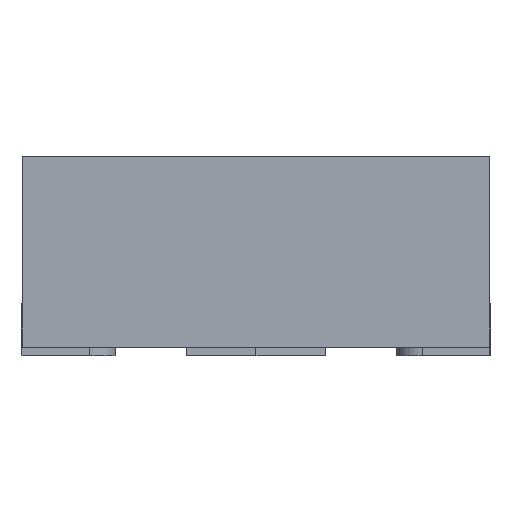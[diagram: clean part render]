
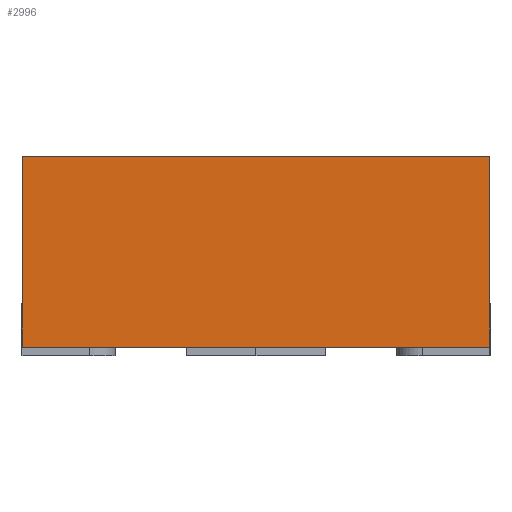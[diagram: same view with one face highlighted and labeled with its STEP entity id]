
A CAD part, left-side view. The second image highlights one B-rep face of the part: STEP entity #2996.
In plain terms, the highlighted planar face has unit normal (-1, 0, 0).
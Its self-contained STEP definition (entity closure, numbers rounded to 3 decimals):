
#147=LINE('',#4315,#494);
#211=LINE('',#4476,#558);
#334=LINE('',#4749,#681);
#358=LINE('',#4803,#705);
#494=VECTOR('',#3524,0.55);
#558=VECTOR('',#3646,1.35);
#681=VECTOR('',#3911,0.55);
#705=VECTOR('',#3969,1.35);
#813=PLANE('',#3207);
#959=FACE_OUTER_BOUND('',#1102,.T.);
#1102=EDGE_LOOP('',(#2674,#2675,#2676,#2677));
#1286=VERTEX_POINT('',#4312);
#1287=VERTEX_POINT('',#4314);
#1355=VERTEX_POINT('',#4474);
#1434=VERTEX_POINT('',#4747);
#1612=EDGE_CURVE('',#1286,#1287,#147,.T.);
#1696=EDGE_CURVE('',#1286,#1355,#211,.T.);
#1833=EDGE_CURVE('',#1355,#1434,#334,.T.);
#1859=EDGE_CURVE('',#1434,#1287,#358,.T.);
#2674=ORIENTED_EDGE('',*,*,#1859,.T.);
#2675=ORIENTED_EDGE('',*,*,#1612,.F.);
#2676=ORIENTED_EDGE('',*,*,#1696,.T.);
#2677=ORIENTED_EDGE('',*,*,#1833,.T.);
#2996=ADVANCED_FACE('',(#959),#813,.T.);
#3207=AXIS2_PLACEMENT_3D('',#4802,#3967,#3968);
#3524=DIRECTION('',(0.,0.,1.));
#3646=DIRECTION('',(0.,-1.,0.));
#3911=DIRECTION('',(0.,0.,1.));
#3967=DIRECTION('center_axis',(-1.,0.,0.));
#3968=DIRECTION('ref_axis',(0.,0.,1.));
#3969=DIRECTION('',(0.,1.,0.));
#4312=CARTESIAN_POINT('',(-1.65,0.675,0.));
#4314=CARTESIAN_POINT('',(-1.65,0.675,0.55));
#4315=CARTESIAN_POINT('',(-1.65,0.675,0.));
#4474=CARTESIAN_POINT('',(-1.65,-0.675,0.));
#4476=CARTESIAN_POINT('',(-1.65,0.675,0.));
#4747=CARTESIAN_POINT('',(-1.65,-0.675,0.55));
#4749=CARTESIAN_POINT('',(-1.65,-0.675,0.));
#4802=CARTESIAN_POINT('Origin',(-1.65,-0.675,0.));
#4803=CARTESIAN_POINT('',(-1.65,0.675,0.55));
